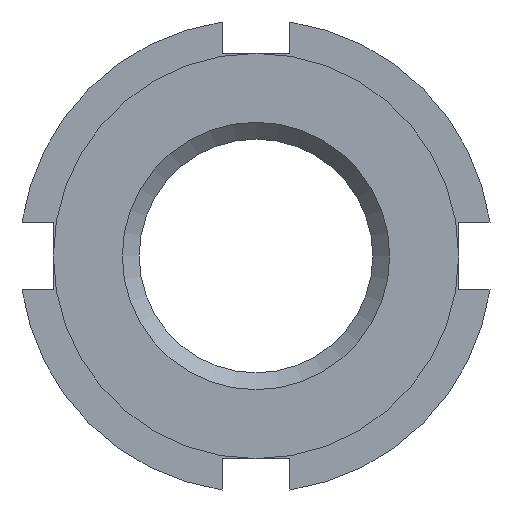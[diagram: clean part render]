
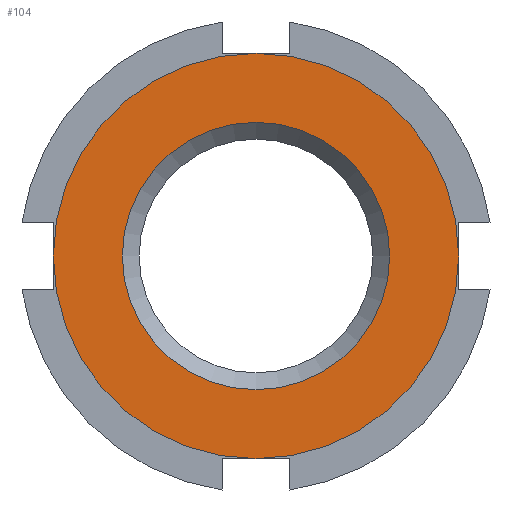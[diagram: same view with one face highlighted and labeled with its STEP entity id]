
A CAD part, left-side view. The second image highlights one B-rep face of the part: STEP entity #104.
In plain terms, the highlighted planar face has unit normal (-1, 0, 0).
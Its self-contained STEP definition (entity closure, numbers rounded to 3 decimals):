
#104 = ADVANCED_FACE( '', ( #177, #178 ), #179, .F. );
#177 = FACE_OUTER_BOUND( '', #255, .T. );
#178 = FACE_BOUND( '', #256, .T. );
#179 = PLANE( '', #257 );
#255 = EDGE_LOOP( '', ( #475 ) );
#256 = EDGE_LOOP( '', ( #476 ) );
#257 = AXIS2_PLACEMENT_3D( '', #477, #478, #479 );
#475 = ORIENTED_EDGE( '', *, *, #570, .F. );
#476 = ORIENTED_EDGE( '', *, *, #550, .T. );
#477 = CARTESIAN_POINT( '', ( 0., 0., 0. ) );
#478 = DIRECTION( '', ( 1., 0., 0. ) );
#479 = DIRECTION( '', ( 0., 0., -1. ) );
#550 = EDGE_CURVE( '', #656, #656, #657, .T. );
#570 = EDGE_CURVE( '', #684, #684, #685, .T. );
#656 = VERTEX_POINT( '', #835 );
#657 = CIRCLE( '', #836, 5.938 );
#684 = VERTEX_POINT( '', #871 );
#685 = CIRCLE( '', #872, 9. );
#835 = CARTESIAN_POINT( '', ( 0., 0., -5.938 ) );
#836 = AXIS2_PLACEMENT_3D( '', #959, #960, #961 );
#871 = CARTESIAN_POINT( '', ( 0., 0., -9. ) );
#872 = AXIS2_PLACEMENT_3D( '', #1006, #1007, #1008 );
#959 = CARTESIAN_POINT( '', ( 0., 0., 0. ) );
#960 = DIRECTION( '', ( 1., 0., 0. ) );
#961 = DIRECTION( '', ( 0., 0., -1. ) );
#1006 = CARTESIAN_POINT( '', ( 0., 0., 0. ) );
#1007 = DIRECTION( '', ( 1., 0., 0. ) );
#1008 = DIRECTION( '', ( 0., 0., -1. ) );
